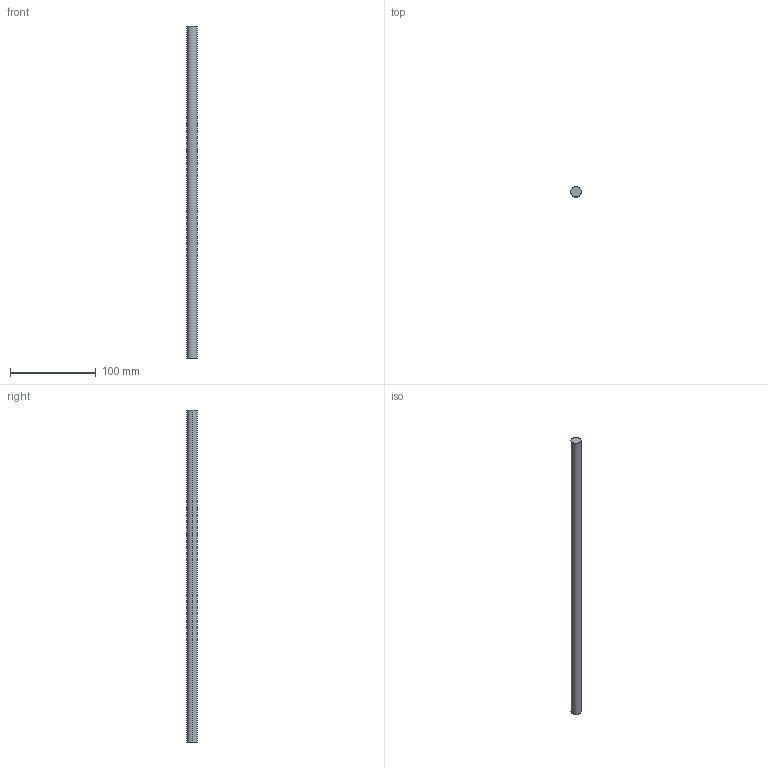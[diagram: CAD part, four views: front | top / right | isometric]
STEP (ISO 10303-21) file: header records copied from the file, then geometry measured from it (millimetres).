
FILE_DESCRIPTION (( 'STEP AP214' ), '1' );
FILE_NAME ('Innenschub H182 - S16_S17 - 500.step', '2010-09-07T14:55:57', ( 'grass' ), ( '' ), 'SwSTEP 2.0', 'SolidWorks 2010', '' );
FILE_SCHEMA (( 'AUTOMOTIVE_DESIGN' ));
Length unit declared in the file: millimetre
Products named in the file (1): Innenschub H182 - S16_S17 - 500
Bounding box: 12 x 12 x 387 mm (x, y, z)
Volume: 43768.7 mm3; surface area: 14815.8 mm2
Topology: 1 solids, 1 shells, 4 faces, 6 edges, 4 vertices
Faces by surface type: cylinder 2, plane 2
Entity records: 128 total; most frequent: DIRECTION 20, CARTESIAN_POINT 15, ORIENTED_EDGE 12, AXIS2_PLACEMENT_3D 9, EDGE_CURVE 6, ADVANCED_FACE 4, VERTEX_POINT 4, EDGE_LOOP 4
